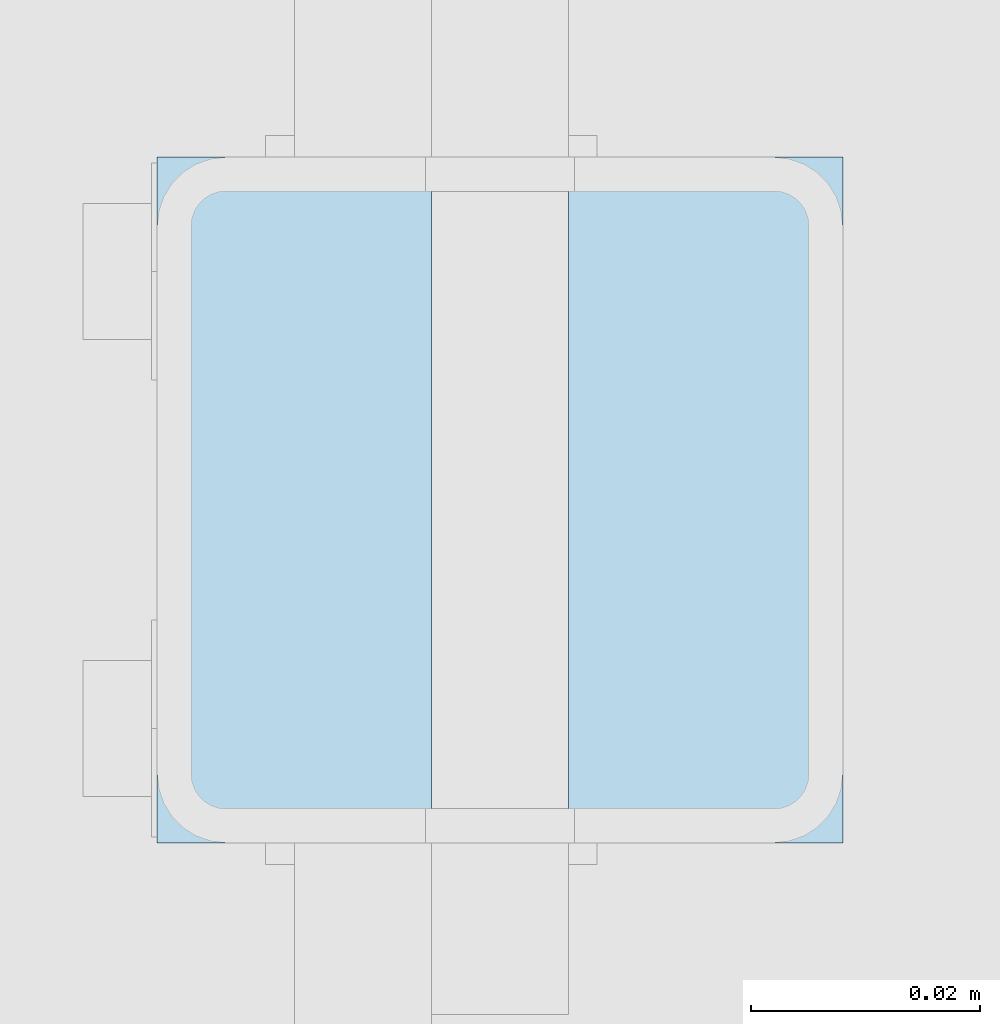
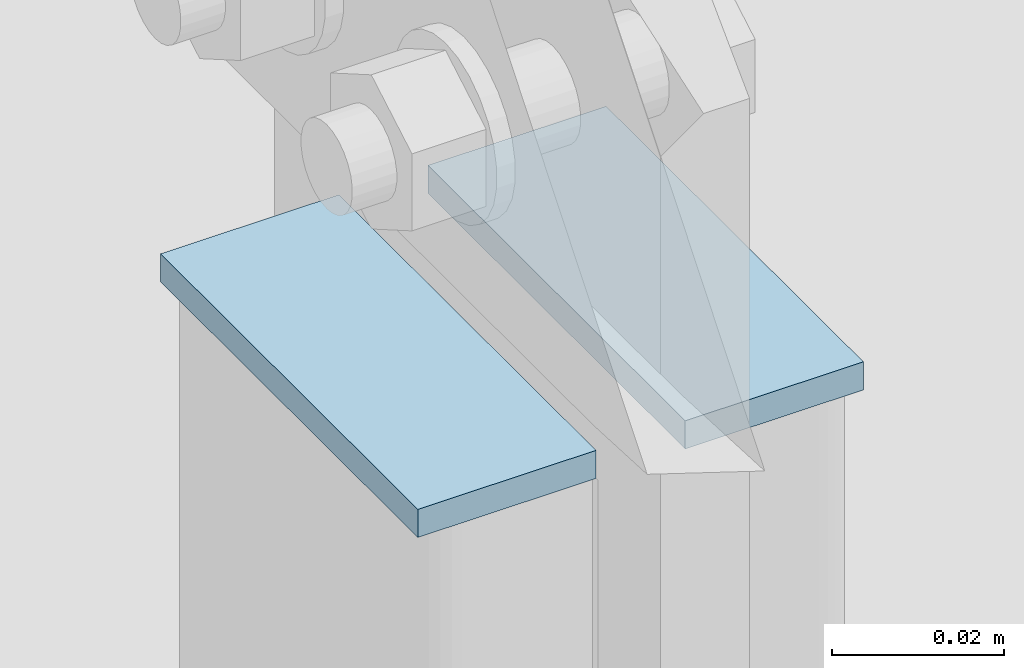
# One storey, part 202 of 271: 2 plates, 1 element without a shape of its own.
"""IFC2X3 building model written with IfcOpenShell, lengths in millimetres."""

from ifc_helpers import new_model, si_unit, frame, origin_with_axes, place, context, subcontext, project, spatial, polyline, outline, extrude, material, type_object, element, aggregate, save


model = new_model("IFC2X3")

# Units and contexts
model_context = context("Model", 3, precision=1e-05, world=origin_with_axes())
body_context = subcontext(model_context, "Body", "Model", "MODEL_VIEW")
ifc_project = project(units=[si_unit("LENGTHUNIT", "METRE", prefix="MILLI"), si_unit("AREAUNIT", "SQUARE_METRE"), si_unit("VOLUMEUNIT", "CUBIC_METRE"), si_unit("MASSUNIT", "GRAM", prefix="KILO"), si_unit("TIMEUNIT", "SECOND"), si_unit("PLANEANGLEUNIT", "RADIAN"), si_unit("SOLIDANGLEUNIT", "STERADIAN"), si_unit("THERMODYNAMICTEMPERATUREUNIT", "DEGREE_CELSIUS"), si_unit("LUMINOUSINTENSITYUNIT", "LUMEN")], contexts=[model_context])

# Site, building, storey
site_placement = place(None, origin_with_axes())
site = spatial("IfcSite", under=ifc_project, at=site_placement, Name="Undefined", CompositionType="ELEMENT")
building_placement = place(site_placement, origin_with_axes())
building = spatial("IfcBuilding", under=site, at=building_placement, Name="Undefined", CompositionType="ELEMENT")
storey_placement = place(building_placement, origin_with_axes())
storey = spatial("IfcBuildingStorey", under=building, at=storey_placement, Name="Undefined", CompositionType="ELEMENT", Elevation=0.0)

# Assembly, plates
assembly_placement = place(storey_placement, origin_with_axes())
assembly = element("IfcElementAssembly", 1, at=assembly_placement, inside=storey, AssemblyPlace="NOTDEFINED", PredefinedType="RIGID_FRAME")
ifc_material = material(Name="STEEL/S355JR")
plate_type = type_object("IfcPlateType", Name="BL4*24", PredefinedType="NOTDEFINED")
plate_1_placement = place(assembly_placement, frame((128.999999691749, 2149.19355050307, 1218.87220454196), z_axis=(0.0, 0.0, -1.0), x_axis=(-1.0, 0.0, 1.38777878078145e-17)))
plate_1 = element("IfcPlate", 2, at=plate_1_placement, type_object=plate_type, material=ifc_material, Name="BLACHA", ObjectType="BL4*24", context=body_context, shape_type="SweptSolid", body=[
    extrude(outline(polyline([(0.0, 0.0), (24.0, 0.0), (24.0, 60.0), (0.0, 60.0), (0.0, 0.0)])), frame((0.0, 0.0, -2.0), z_axis=(0.0, 0.0, 1.0), x_axis=(1.0, 0.0, 0.0)), (0.0, 0.0, 1.0), 4.0),
])
plate_2_placement = place(assembly_placement, frame((93.0, 2149.19355050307, 1218.87220454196), z_axis=(0.0, 0.0, -1.0), x_axis=(-1.0, 0.0, 1.38777878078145e-17)))
plate_2 = element("IfcPlate", 3, at=plate_2_placement, type_object=plate_type, material=ifc_material, Name="BLACHA", ObjectType="BL4*24", context=body_context, shape_type="SweptSolid", body=[
    extrude(outline(polyline([(0.0, 0.0), (24.0, 0.0), (24.0, 60.0), (0.0, 60.0), (0.0, 0.0)])), frame((0.0, 0.0, -2.0), z_axis=(0.0, 0.0, 1.0), x_axis=(1.0, 0.0, 0.0)), (0.0, 0.0, 1.0), 4.0),
])
aggregate(assembly, [plate_1, plate_2])

save(model, "model.ifc")
